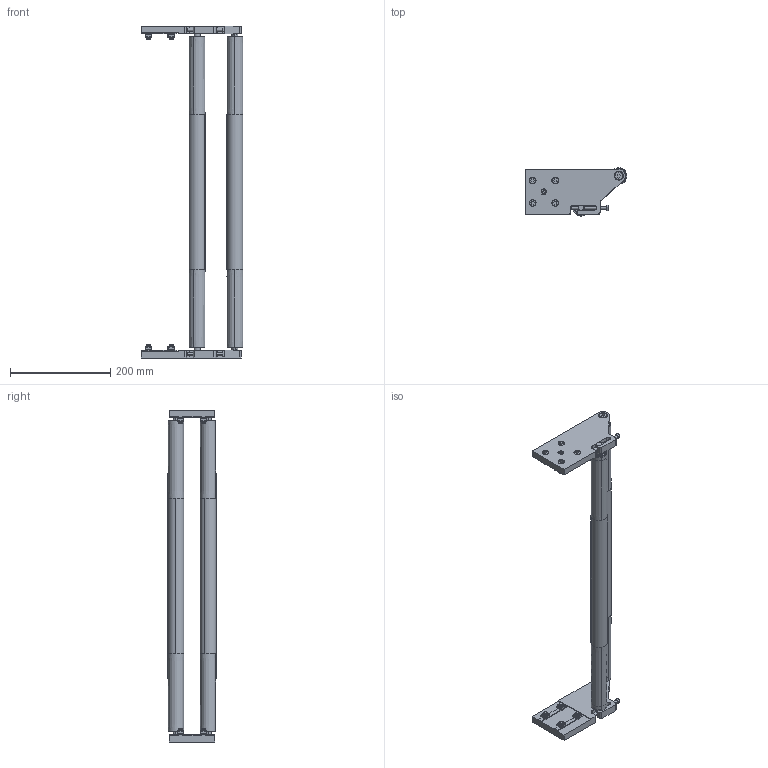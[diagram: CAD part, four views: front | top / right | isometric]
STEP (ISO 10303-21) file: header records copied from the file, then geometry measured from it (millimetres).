
FILE_DESCRIPTION (( 'STEP AP203' ), '1' );
FILE_NAME ('084.095.KP.600.STEP', '2016-11-08T08:13:54', ( 'Utente' ), ( '' ), 'SwSTEP 2.0', 'SolidWorks 2016', '' );
FILE_SCHEMA (( 'CONFIG_CONTROL_DESIGN' ));
Length unit declared in the file: millimetre
Products named in the file (1): 084.095.KP.600
Bounding box: 203 x 96.04 x 662 mm (x, y, z)
Surface area: 226586.6 mm2 (no closed solid volume)
Topology: 0 solids, 47 shells, 541 faces, 1758 edges, 1237 vertices
Faces by surface type: plane 232, cylinder 143, torus 72, cone 66, bspline 28
Entity records: 22044 total; most frequent: CARTESIAN_POINT 7245, DIRECTION 2955, ORIENTED_EDGE 2832, EDGE_CURVE 1758, VERTEX_POINT 1237, AXIS2_PLACEMENT_3D 1101, LINE 753, VECTOR 753
